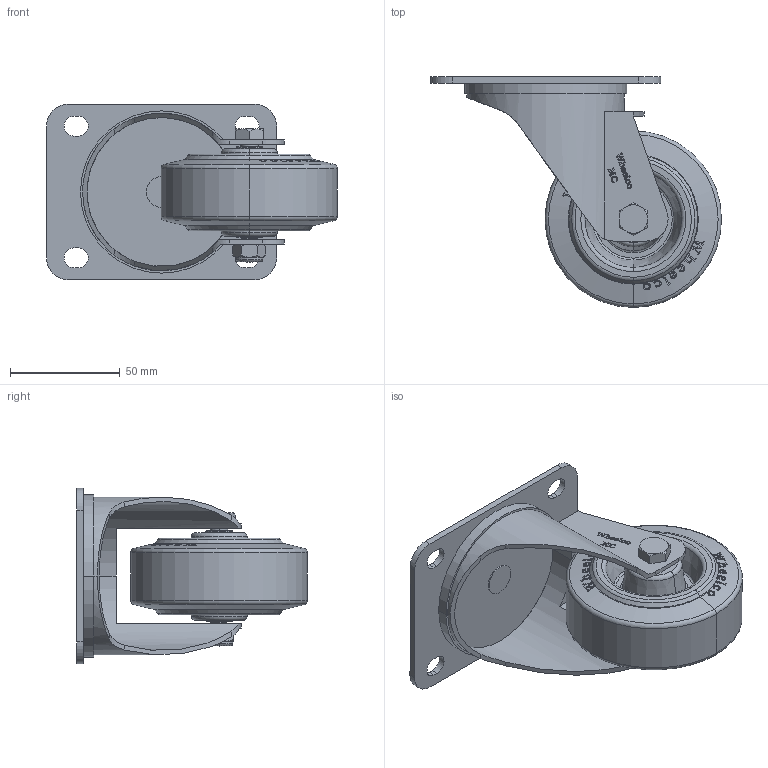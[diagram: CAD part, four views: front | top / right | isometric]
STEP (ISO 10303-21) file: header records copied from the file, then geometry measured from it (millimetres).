
FILE_DESCRIPTION (( 'STEP AP214' ), '1' );
FILE_NAME ('MCB80-P.step', '2023-11-29T20:23:36', ( '' ), ( '' ), 'SwSTEP 2.0', 'SolidWorks 2022', '' );
FILE_SCHEMA (( 'AUTOMOTIVE_DESIGN' ));
Length unit declared in the file: millimetre
Products named in the file (7): MC80-P; MC 105x80 Swivel Plate; M8Nyloc; SP12-8-41; M8x55; MCB80; MCB80-P
Assembly tree (6 placements, depth 2):
  MCB80-P
    MC80-P
    M8Nyloc
    M8x55
    SP12-8-41
    MC 105x80 Swivel Plate
    MCB80
Bounding box: 132.75 x 105.25 x 80 mm (x, y, z)
Volume: 192523.3 mm3; surface area: 72974 mm2
Topology: 6 solids, 6 shells, 713 faces, 1885 edges, 1235 vertices
Faces by surface type: plane 326, bspline 168, cylinder 141, cone 42, torus 34, sphere 2
Entity records: 36827 total; most frequent: CARTESIAN_POINT 19509, ORIENTED_EDGE 3770, DIRECTION 2660, EDGE_CURVE 1885, VERTEX_POINT 1235, LINE 978, VECTOR 978, AXIS2_PLACEMENT_3D 841
